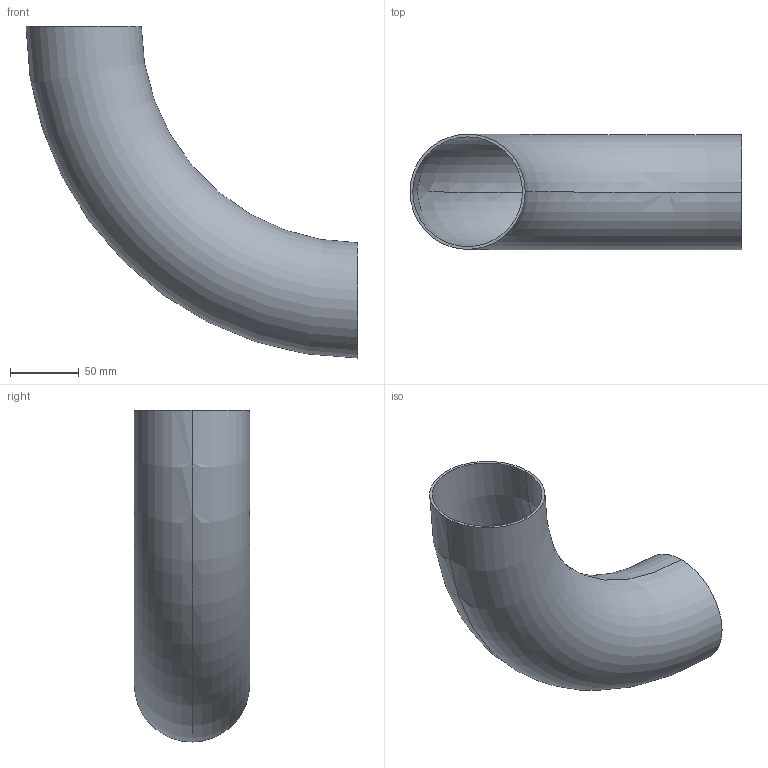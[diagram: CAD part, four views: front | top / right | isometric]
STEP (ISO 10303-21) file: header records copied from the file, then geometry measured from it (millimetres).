
FILE_DESCRIPTION (( 'STEP AP203' ), '1' );
FILE_NAME ('3D_R1655_84x2_17362270.STEP', '2024-08-05T09:16:15', ( '' ), ( '' ), 'SwSTEP 2.0', 'SolidWorks 2024', '' );
FILE_SCHEMA (( 'CONFIG_CONTROL_DESIGN' ));
Length unit declared in the file: millimetre
Products named in the file (1): 3D_R1655_84x2_17362270
Bounding box: 242 x 84 x 242 mm (x, y, z)
Volume: 161861.5 mm3; surface area: 162892 mm2
Topology: 1 solids, 1 shells, 6 faces, 12 edges, 8 vertices
Faces by surface type: torus 4, plane 2
Entity records: 249 total; most frequent: DIRECTION 38, CARTESIAN_POINT 27, ORIENTED_EDGE 24, AXIS2_PLACEMENT_3D 19, EDGE_CURVE 12, CIRCLE 12, VERTEX_POINT 8, PERSON_AND_ORGANIZATION 8
